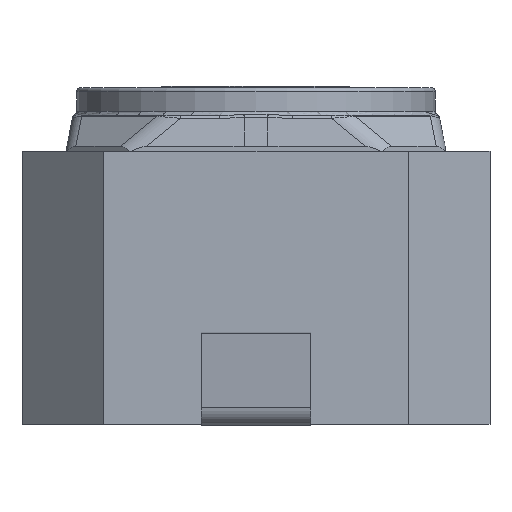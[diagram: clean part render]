
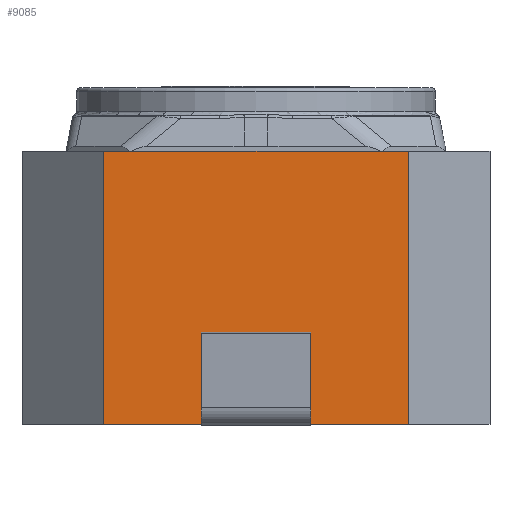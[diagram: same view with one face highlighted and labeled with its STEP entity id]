
A CAD part, front view. The second image highlights one B-rep face of the part: STEP entity #9085.
In plain terms, the highlighted planar face has unit normal (0, -1, 0).
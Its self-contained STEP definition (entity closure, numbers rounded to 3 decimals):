
#676=DIRECTION('',(1.,0.,0.));
#677=VECTOR('',#676,1.25);
#678=CARTESIAN_POINT('',(12.79,-7.491,-1.75));
#679=LINE('',#678,#677);
#698=DIRECTION('',(1.,0.,0.));
#699=VECTOR('',#698,1.25);
#700=CARTESIAN_POINT('',(10.14,-7.491,-1.75));
#701=LINE('',#700,#699);
#719=DIRECTION('',(0.,0.,1.));
#720=VECTOR('',#719,0.189);
#721=CARTESIAN_POINT('',(11.39,-7.491,-1.75));
#722=LINE('',#721,#720);
#745=DIRECTION('',(1.,0.,0.));
#746=VECTOR('',#745,3.9);
#747=CARTESIAN_POINT('',(10.14,-7.491,1.75));
#748=LINE('',#747,#746);
#749=DIRECTION('',(-1.,0.,0.));
#750=VECTOR('',#749,1.4);
#751=CARTESIAN_POINT('',(12.79,-7.491,-1.561));
#752=LINE('',#751,#750);
#753=DIRECTION('',(0.,0.,-1.));
#754=VECTOR('',#753,0.189);
#755=CARTESIAN_POINT('',(12.79,-7.491,-1.561));
#756=LINE('',#755,#754);
#882=DIRECTION('',(0.,0.,-1.));
#883=VECTOR('',#882,3.5);
#884=CARTESIAN_POINT('',(10.14,-7.491,1.75));
#885=LINE('',#884,#883);
#997=DIRECTION('',(0.,0.,1.));
#998=VECTOR('',#997,3.5);
#999=CARTESIAN_POINT('',(14.04,-7.491,-1.75));
#1000=LINE('',#999,#998);
#7208=CARTESIAN_POINT('',(10.14,-7.491,1.75));
#7210=VERTEX_POINT('',#7208);
#7221=CARTESIAN_POINT('',(14.04,-7.491,1.75));
#7223=VERTEX_POINT('',#7221);
#7248=CARTESIAN_POINT('',(14.04,-7.491,-1.75));
#7250=VERTEX_POINT('',#7248);
#7266=CARTESIAN_POINT('',(10.14,-7.491,-1.75));
#7267=VERTEX_POINT('',#7266);
#7835=CARTESIAN_POINT('',(12.79,-7.491,-1.561));
#7836=CARTESIAN_POINT('',(11.39,-7.491,-1.561));
#7837=VERTEX_POINT('',#7835);
#7838=VERTEX_POINT('',#7836);
#7839=CARTESIAN_POINT('',(11.39,-7.491,-1.75));
#7840=VERTEX_POINT('',#7839);
#7841=CARTESIAN_POINT('',(12.79,-7.491,-1.75));
#7842=VERTEX_POINT('',#7841);
#9065=CARTESIAN_POINT('',(12.09,-7.491,0.));
#9066=DIRECTION('',(0.,1.,0.));
#9067=DIRECTION('',(0.,0.,1.));
#9068=AXIS2_PLACEMENT_3D('',#9065,#9066,#9067);
#9069=PLANE('',#9068);
#9071=ORIENTED_EDGE('',*,*,#9070,.T.);
#9072=ORIENTED_EDGE('',*,*,#9052,.F.);
#9073=ORIENTED_EDGE('',*,*,#9011,.F.);
#9075=ORIENTED_EDGE('',*,*,#9074,.F.);
#9077=ORIENTED_EDGE('',*,*,#9076,.T.);
#9079=ORIENTED_EDGE('',*,*,#9078,.F.);
#9080=ORIENTED_EDGE('',*,*,#8993,.F.);
#9082=ORIENTED_EDGE('',*,*,#9081,.F.);
#9083=EDGE_LOOP('',(#9071,#9072,#9073,#9075,#9077,#9079,#9080,#9082));
#9084=FACE_OUTER_BOUND('',#9083,.F.);
#8993=EDGE_CURVE('',#7842,#7250,#679,.T.);
#9011=EDGE_CURVE('',#7267,#7840,#701,.T.);
#9052=EDGE_CURVE('',#7840,#7838,#722,.T.);
#9070=EDGE_CURVE('',#7837,#7838,#752,.T.);
#9074=EDGE_CURVE('',#7210,#7267,#885,.T.);
#9076=EDGE_CURVE('',#7210,#7223,#748,.T.);
#9078=EDGE_CURVE('',#7250,#7223,#1000,.T.);
#9081=EDGE_CURVE('',#7837,#7842,#756,.T.);
#9085=ADVANCED_FACE('',(#9084),#9069,.F.);
